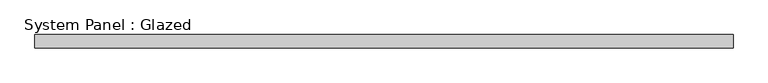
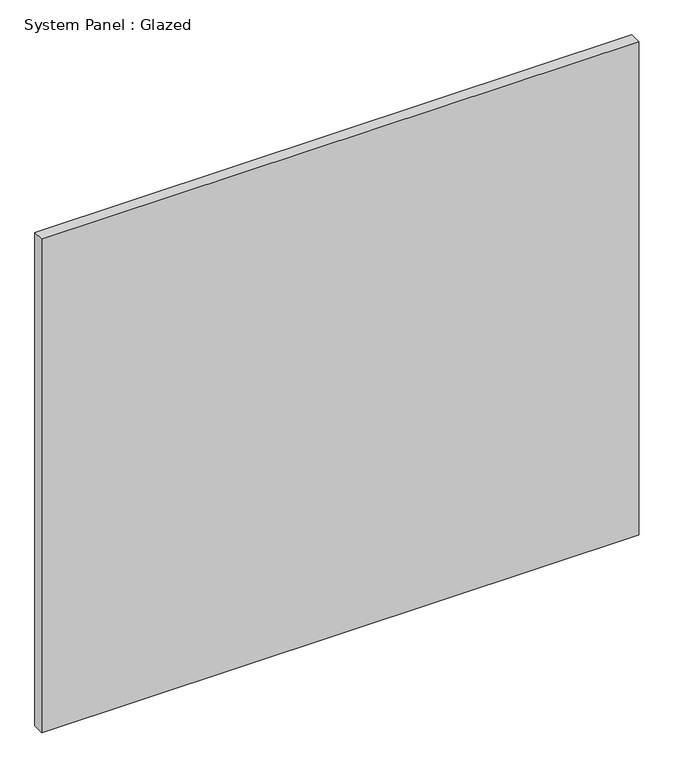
"""IFC4 building model written with IfcOpenShell, lengths in millimetres: plate geometry, System Panel : Glazed."""

from ifc_helpers import new_model, si_unit, origin, origin_with_axes, place, context, project, spatial, polyline, outline, extrude, source, transform, mapped, element, save


def system_panel_glazed_fe08b056(model_context):
    return source(origin(), model_context, "Body", "SweptSolid", [
        extrude(outline(polyline([(643.3333333, -49.5), (-643.3333333, -49.5), (-643.3333333, -24.5), (643.3333333, -24.5), (643.3333333, -49.5)])), origin_with_axes(), (0.0, 0.0, 1.0), 1125.0),
    ])


if __name__ == "__main__":
    model = new_model("IFC4")
    model_context = context("Model", 3, world=origin())
    ifc_project = project(units=[si_unit("LENGTHUNIT", "METRE", prefix="MILLI")], contexts=[model_context])
    site = spatial("IfcSite", under=ifc_project)
    building = spatial("IfcBuilding", under=site)
    placement = place(None, origin())
    system_panel_glazed_shape = system_panel_glazed_fe08b056(model_context)
    element("IfcPlate", 1, ObjectType="System Panel : Glazed", at=placement, inside=building, context=model_context, shape_type="MappedRepresentation", body=[
        mapped(system_panel_glazed_shape, transform((0.0, 0.0, 0.0), x_axis=(1.0, 0.0, 0.0), y_axis=(0.0, 1.0, 0.0), z_axis=(0.0, 0.0, 1.0))),
    ])
    save(model, "model.ifc")
